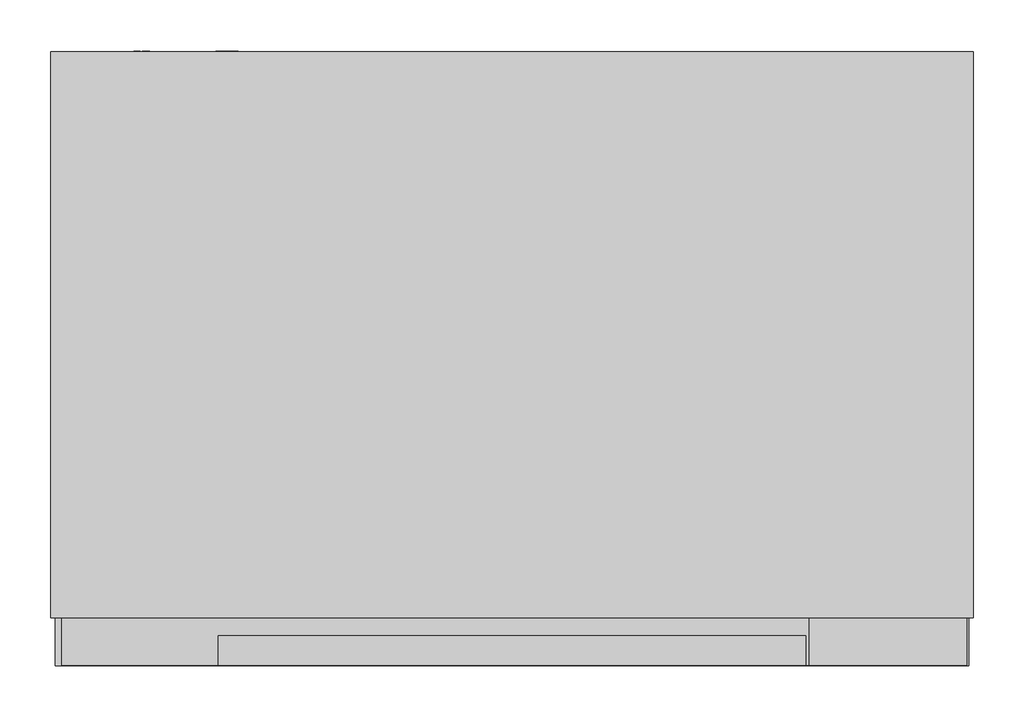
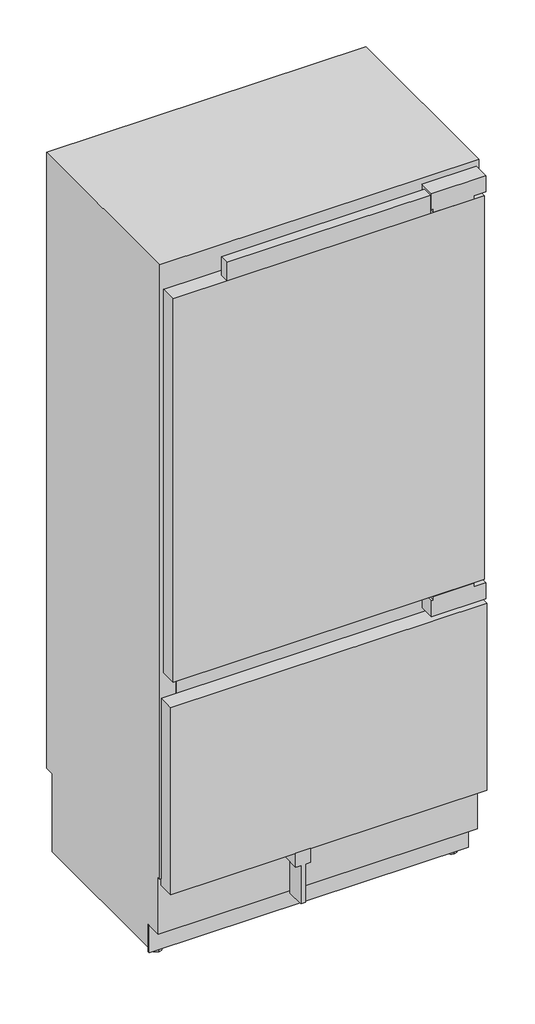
# Not in any storey: 1 proxy.
"""IFC4 building model written with IfcOpenShell, lengths in millimetres."""

from ifc_helpers import new_model, si_unit, origin, place, context, project, spatial, transform, mapped, element, save
from components import specialty_equipment_3cc039fb

model = new_model("IFC4")

# Units and contexts
model_context = context("Model", 3, world=origin())
ifc_project = project(units=[si_unit("LENGTHUNIT", "METRE", prefix="MILLI")], contexts=[model_context])

# Site, building
site = spatial("IfcSite", under=ifc_project)
building = spatial("IfcBuilding", under=site)

# Proxy
placement = place(None, origin())
specialty_equipment_shape = specialty_equipment_3cc039fb(model_context)
element("IfcBuildingElementProxy", 1, Name="11288010_OER_KF2901VI_R : 38290101_OER_11288010_KF2901VI_R", ObjectType="11288010_OER_KF2901VI_R : 38290101_OER_11288010_KF2901VI_R", at=placement, inside=building, context=model_context, shape_type="MappedRepresentation", body=[
    mapped(specialty_equipment_shape, transform((0.0, 0.0, 0.0), x_axis=(1.0, 0.0, 0.0), y_axis=(0.0, 1.0, 0.0), z_axis=(0.0, 0.0, 1.0))),
])

save(model, "model.ifc")
